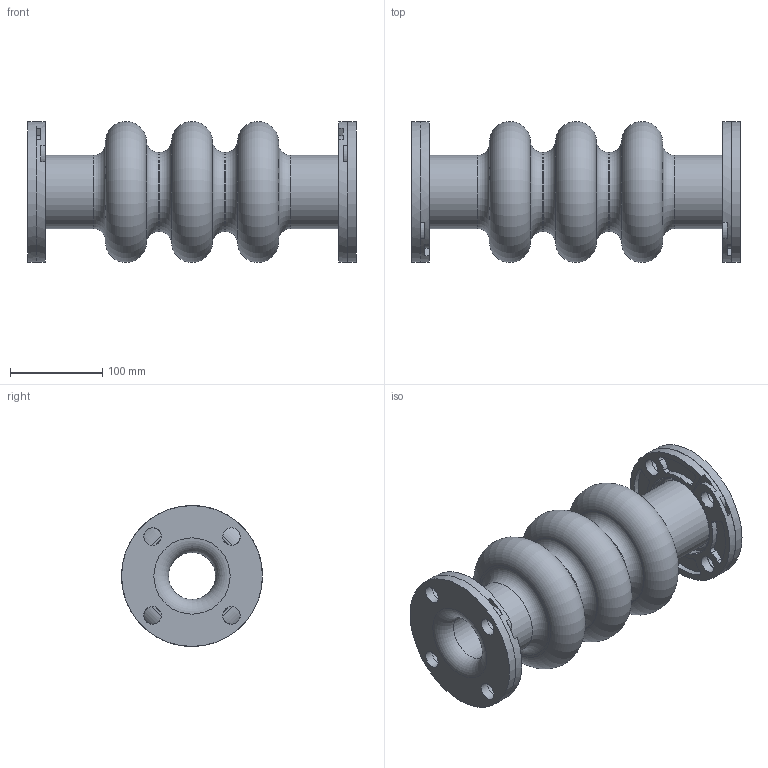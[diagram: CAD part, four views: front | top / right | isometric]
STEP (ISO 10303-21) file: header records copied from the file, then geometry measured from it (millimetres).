
FILE_DESCRIPTION(/* description */ (''),/* implementation_level */ '2;1');
FILE_NAME(/* name */ 'C:\001_Work\Designs\Mercer2014\MQInventor2014\RajR\500 Style\503\New folder\503 2IDx14FF.stp',/* time_stamp */ '2016-03-26T18:11:19-04:00',/* author */ ('rramoutar'),/* organization */ ('Mason Industries Inc.'),/* preprocessor_version */ 'ST-DEVELOPER v15.6',/* originating_system */ 'Autodesk Inventor 2015',/* authorisation */ '');
FILE_SCHEMA (('CONFIG_CONTROL_DESIGN'));
Length unit declared in the file: inch
Products named in the file (1): 503 2IDx14FF
Bounding box: 355.6 x 152.4 x 152.4 mm (x, y, z)
Volume: 2417434.7 mm3; surface area: 396468.5 mm2
Topology: 2 solids, 2 shells, 188 faces, 502 edges, 322 vertices
Faces by surface type: cylinder 102, plane 50, torus 24, cone 12
Full cylindrical faces by diameter (mm): 19.05 x16, 50.8 x4, 79.375 x2, 85.725 x2, 88.9 x2, 152.4 x4
Entity records: 6005 total; most frequent: CARTESIAN_POINT 1145, DIRECTION 1048, ORIENTED_EDGE 862, AXIS2_PLACEMENT_3D 444, EDGE_CURVE 431, VERTEX_POINT 309, EDGE_LOOP 282, CIRCLE 255
